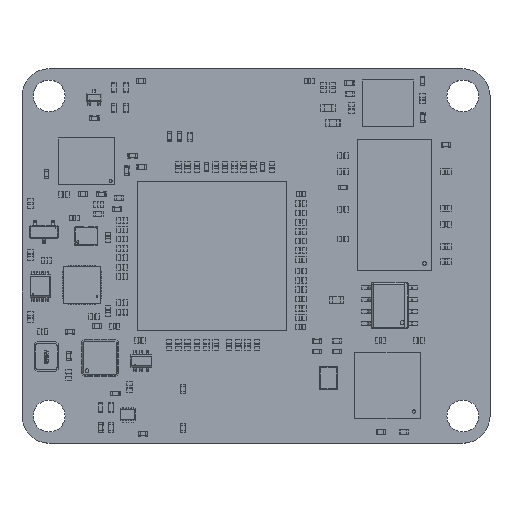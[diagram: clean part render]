
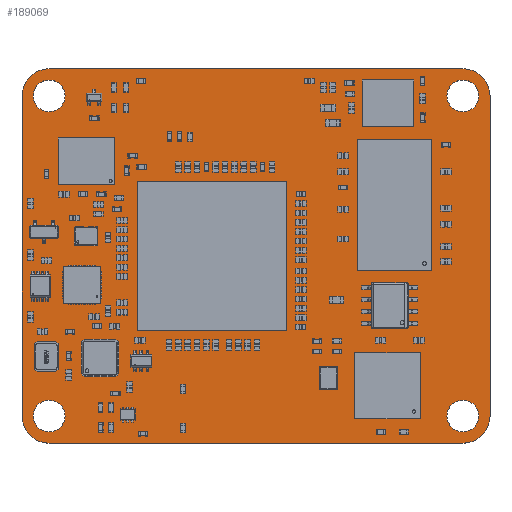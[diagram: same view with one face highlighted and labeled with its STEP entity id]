
A CAD part, top view. The second image highlights one B-rep face of the part: STEP entity #189069.
In plain terms, the highlighted planar face has unit normal (0, 0, 1).
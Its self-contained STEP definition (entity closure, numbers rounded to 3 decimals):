
#188876 = VERTEX_POINT('',#188877);
#188877 = CARTESIAN_POINT('',(22.1,20.,1.51));
#188883 = EDGE_CURVE('',#188876,#188884,#188886,.T.);
#188884 = VERTEX_POINT('',#188885);
#188885 = CARTESIAN_POINT('',(25.,17.1,1.51));
#188886 = CIRCLE('',#188887,2.9);
#188887 = AXIS2_PLACEMENT_3D('',#188888,#188889,#188890);
#188888 = CARTESIAN_POINT('',(22.1,17.1,1.51));
#188889 = DIRECTION('',(0.,0.,-1.));
#188890 = DIRECTION('',(0.,1.,0.));
#188918 = VERTEX_POINT('',#188919);
#188919 = CARTESIAN_POINT('',(-22.1,20.,1.51));
#188925 = EDGE_CURVE('',#188918,#188876,#188926,.T.);
#188926 = LINE('',#188927,#188928);
#188927 = CARTESIAN_POINT('',(-22.1,20.,1.51));
#188928 = VECTOR('',#188929,1.);
#188929 = DIRECTION('',(1.,0.,0.));
#188947 = EDGE_CURVE('',#188884,#188948,#188950,.T.);
#188948 = VERTEX_POINT('',#188949);
#188949 = CARTESIAN_POINT('',(25.,-17.1,1.51));
#188950 = LINE('',#188951,#188952);
#188951 = CARTESIAN_POINT('',(25.,17.1,1.51));
#188952 = VECTOR('',#188953,1.);
#188953 = DIRECTION('',(0.,-1.,0.));
#189069 = ADVANCED_FACE('',(#189070,#189116,#189127,#189138,#189149),
  #189160,.T.);
#189070 = FACE_BOUND('',#189071,.T.);
#189071 = EDGE_LOOP('',(#189072,#189073,#189074,#189083,#189091,#189100,
    #189108,#189115));
#189072 = ORIENTED_EDGE('',*,*,#188883,.F.);
#189073 = ORIENTED_EDGE('',*,*,#188925,.F.);
#189074 = ORIENTED_EDGE('',*,*,#189075,.F.);
#189075 = EDGE_CURVE('',#189076,#188918,#189078,.T.);
#189076 = VERTEX_POINT('',#189077);
#189077 = CARTESIAN_POINT('',(-25.,17.1,1.51));
#189078 = CIRCLE('',#189079,2.9);
#189079 = AXIS2_PLACEMENT_3D('',#189080,#189081,#189082);
#189080 = CARTESIAN_POINT('',(-22.1,17.1,1.51));
#189081 = DIRECTION('',(0.,0.,-1.));
#189082 = DIRECTION('',(-1.,0.,-0.));
#189083 = ORIENTED_EDGE('',*,*,#189084,.F.);
#189084 = EDGE_CURVE('',#189085,#189076,#189087,.T.);
#189085 = VERTEX_POINT('',#189086);
#189086 = CARTESIAN_POINT('',(-25.,-17.1,1.51));
#189087 = LINE('',#189088,#189089);
#189088 = CARTESIAN_POINT('',(-25.,-17.1,1.51));
#189089 = VECTOR('',#189090,1.);
#189090 = DIRECTION('',(0.,1.,0.));
#189091 = ORIENTED_EDGE('',*,*,#189092,.F.);
#189092 = EDGE_CURVE('',#189093,#189085,#189095,.T.);
#189093 = VERTEX_POINT('',#189094);
#189094 = CARTESIAN_POINT('',(-22.1,-20.,1.51));
#189095 = CIRCLE('',#189096,2.9);
#189096 = AXIS2_PLACEMENT_3D('',#189097,#189098,#189099);
#189097 = CARTESIAN_POINT('',(-22.1,-17.1,1.51));
#189098 = DIRECTION('',(0.,0.,-1.));
#189099 = DIRECTION('',(0.,-1.,0.));
#189100 = ORIENTED_EDGE('',*,*,#189101,.F.);
#189101 = EDGE_CURVE('',#189102,#189093,#189104,.T.);
#189102 = VERTEX_POINT('',#189103);
#189103 = CARTESIAN_POINT('',(22.1,-20.,1.51));
#189104 = LINE('',#189105,#189106);
#189105 = CARTESIAN_POINT('',(22.1,-20.,1.51));
#189106 = VECTOR('',#189107,1.);
#189107 = DIRECTION('',(-1.,0.,0.));
#189108 = ORIENTED_EDGE('',*,*,#189109,.F.);
#189109 = EDGE_CURVE('',#188948,#189102,#189110,.T.);
#189110 = CIRCLE('',#189111,2.9);
#189111 = AXIS2_PLACEMENT_3D('',#189112,#189113,#189114);
#189112 = CARTESIAN_POINT('',(22.1,-17.1,1.51));
#189113 = DIRECTION('',(0.,0.,-1.));
#189114 = DIRECTION('',(1.,0.,0.));
#189115 = ORIENTED_EDGE('',*,*,#188947,.F.);
#189116 = FACE_BOUND('',#189117,.T.);
#189117 = EDGE_LOOP('',(#189118));
#189118 = ORIENTED_EDGE('',*,*,#189119,.T.);
#189119 = EDGE_CURVE('',#189120,#189120,#189122,.T.);
#189120 = VERTEX_POINT('',#189121);
#189121 = CARTESIAN_POINT('',(-22.1,-18.8,1.51));
#189122 = CIRCLE('',#189123,1.7);
#189123 = AXIS2_PLACEMENT_3D('',#189124,#189125,#189126);
#189124 = CARTESIAN_POINT('',(-22.1,-17.1,1.51));
#189125 = DIRECTION('',(-0.,0.,-1.));
#189126 = DIRECTION('',(-0.,-1.,0.));
#189127 = FACE_BOUND('',#189128,.T.);
#189128 = EDGE_LOOP('',(#189129));
#189129 = ORIENTED_EDGE('',*,*,#189130,.T.);
#189130 = EDGE_CURVE('',#189131,#189131,#189133,.T.);
#189131 = VERTEX_POINT('',#189132);
#189132 = CARTESIAN_POINT('',(22.1,-18.8,1.51));
#189133 = CIRCLE('',#189134,1.7);
#189134 = AXIS2_PLACEMENT_3D('',#189135,#189136,#189137);
#189135 = CARTESIAN_POINT('',(22.1,-17.1,1.51));
#189136 = DIRECTION('',(-0.,0.,-1.));
#189137 = DIRECTION('',(-0.,-1.,0.));
#189138 = FACE_BOUND('',#189139,.T.);
#189139 = EDGE_LOOP('',(#189140));
#189140 = ORIENTED_EDGE('',*,*,#189141,.T.);
#189141 = EDGE_CURVE('',#189142,#189142,#189144,.T.);
#189142 = VERTEX_POINT('',#189143);
#189143 = CARTESIAN_POINT('',(-22.1,15.4,1.51));
#189144 = CIRCLE('',#189145,1.7);
#189145 = AXIS2_PLACEMENT_3D('',#189146,#189147,#189148);
#189146 = CARTESIAN_POINT('',(-22.1,17.1,1.51));
#189147 = DIRECTION('',(-0.,0.,-1.));
#189148 = DIRECTION('',(-0.,-1.,0.));
#189149 = FACE_BOUND('',#189150,.T.);
#189150 = EDGE_LOOP('',(#189151));
#189151 = ORIENTED_EDGE('',*,*,#189152,.T.);
#189152 = EDGE_CURVE('',#189153,#189153,#189155,.T.);
#189153 = VERTEX_POINT('',#189154);
#189154 = CARTESIAN_POINT('',(22.1,15.4,1.51));
#189155 = CIRCLE('',#189156,1.7);
#189156 = AXIS2_PLACEMENT_3D('',#189157,#189158,#189159);
#189157 = CARTESIAN_POINT('',(22.1,17.1,1.51));
#189158 = DIRECTION('',(-0.,0.,-1.));
#189159 = DIRECTION('',(-0.,-1.,0.));
#189160 = PLANE('',#189161);
#189161 = AXIS2_PLACEMENT_3D('',#189162,#189163,#189164);
#189162 = CARTESIAN_POINT('',(0.,0.,1.51));
#189163 = DIRECTION('',(0.,0.,1.));
#189164 = DIRECTION('',(1.,0.,-0.));
